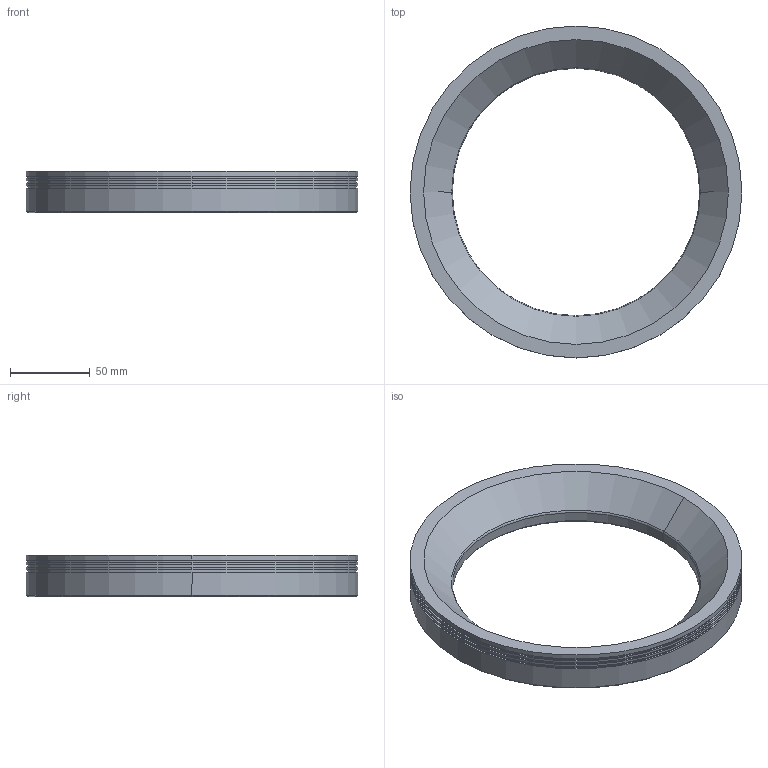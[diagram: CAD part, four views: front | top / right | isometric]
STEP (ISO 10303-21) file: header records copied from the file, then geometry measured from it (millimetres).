
FILE_DESCRIPTION((''),'2;1');
FILE_NAME('DRL7030','2020-03-28T',('ASUS'),(''),'PRO/ENGINEER BY PARAMETRIC TECHNOLOGY CORPORATION, 2008380','PRO/ENGINEER BY PARAMETRIC TECHNOLOGY CORPORATION, 2008380','');
FILE_SCHEMA(('CONFIG_CONTROL_DESIGN'));
Length unit declared in the file: millimetre
Products named in the file (1): DRL7030
Bounding box: 208 x 208 x 26 mm (x, y, z)
Volume: 304173.2 mm3; surface area: 58766.2 mm2
Topology: 1 solids, 5 shells, 68 faces, 152 edges, 92 vertices
Faces by surface type: cylinder 32, cone 22, plane 12, torus 2
Entity records: 1901 total; most frequent: DIRECTION 372, CARTESIAN_POINT 305, ORIENTED_EDGE 272, AXIS2_PLACEMENT_3D 159, EDGE_CURVE 144, VERTEX_POINT 92, CIRCLE 90, EDGE_LOOP 84
